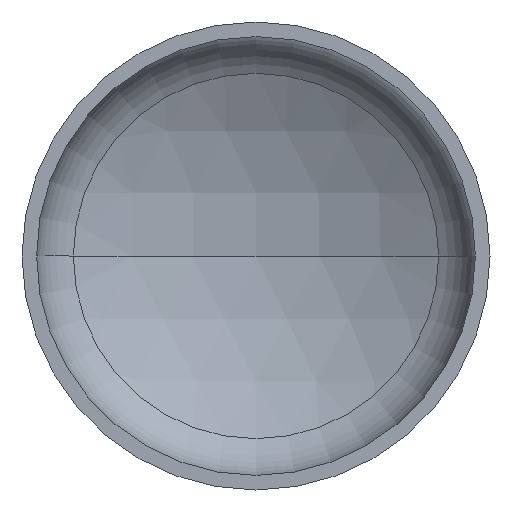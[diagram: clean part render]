
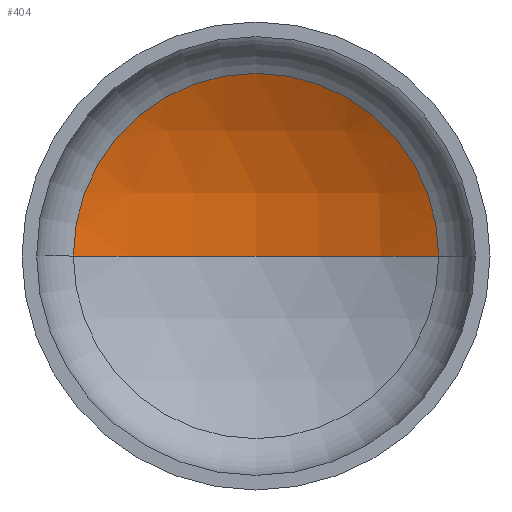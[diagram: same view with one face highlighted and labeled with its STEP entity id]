
A CAD part, front view. The second image highlights one B-rep face of the part: STEP entity #404.
In plain terms, the highlighted spherical face has radius 1280 mm.
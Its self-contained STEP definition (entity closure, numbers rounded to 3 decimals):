
#7 = AXIS2_PLACEMENT_3D ( 'NONE', #172, #344, #249 ) ;
#11 = EDGE_LOOP ( 'NONE', ( #91, #66, #16 ) ) ;
#16 = ORIENTED_EDGE ( 'NONE', *, *, #203, .T. ) ;
#19 = CARTESIAN_POINT ( 'NONE',  ( 0., -753.438, 0. ) ) ;
#23 = CARTESIAN_POINT ( 'NONE',  ( 624.541, 363.857, 0. ) ) ;
#31 = VERTEX_POINT ( 'NONE', #280 ) ;
#38 = AXIS2_PLACEMENT_3D ( 'NONE', #19, #45, #43 ) ;
#41 = AXIS2_PLACEMENT_3D ( 'NONE', #179, #178, #177 ) ;
#43 = DIRECTION ( 'NONE',  ( -1., 0., 0. ) ) ;
#45 = DIRECTION ( 'NONE',  ( 0., 0., -1. ) ) ;
#66 = ORIENTED_EDGE ( 'NONE', *, *, #217, .T. ) ;
#91 = ORIENTED_EDGE ( 'NONE', *, *, #371, .F. ) ;
#114 = VERTEX_POINT ( 'NONE', #379 ) ;
#166 = DIRECTION ( 'NONE',  ( 0., 0., -1. ) ) ;
#172 = CARTESIAN_POINT ( 'NONE',  ( 0., -753.438, 0. ) ) ;
#177 = DIRECTION ( 'NONE',  ( 1., 0., 0. ) ) ;
#178 = DIRECTION ( 'NONE',  ( 0., -1., 0. ) ) ;
#179 = CARTESIAN_POINT ( 'NONE',  ( 0., 363.857, 0. ) ) ;
#191 = DIRECTION ( 'NONE',  ( -1., 0., 0. ) ) ;
#203 = EDGE_CURVE ( 'NONE', #224, #31, #372, .T. ) ;
#210 = CIRCLE ( 'NONE', #7, 1280. ) ;
#217 = EDGE_CURVE ( 'NONE', #114, #224, #367, .T. ) ;
#224 = VERTEX_POINT ( 'NONE', #23 ) ;
#249 = DIRECTION ( 'NONE',  ( 1., 0., 0. ) ) ;
#280 = CARTESIAN_POINT ( 'NONE',  ( -624.541, 363.857, 0. ) ) ;
#319 = SPHERICAL_SURFACE ( 'NONE', #387, 1280. ) ;
#326 = FACE_OUTER_BOUND ( 'NONE', #11, .T. ) ;
#344 = DIRECTION ( 'NONE',  ( 0., 0., 1. ) ) ;
#367 = CIRCLE ( 'NONE', #38, 1280. ) ;
#371 = EDGE_CURVE ( 'NONE', #114, #31, #210, .T. ) ;
#372 = CIRCLE ( 'NONE', #41, 624.541 ) ;
#379 = CARTESIAN_POINT ( 'NONE',  ( 0., 526.562, 0. ) ) ;
#383 = CARTESIAN_POINT ( 'NONE',  ( 0., -753.438, 0. ) ) ;
#387 = AXIS2_PLACEMENT_3D ( 'NONE', #383, #166, #191 ) ;
#404 = ADVANCED_FACE ( 'NONE', ( #326 ), #319, .F. ) ;
